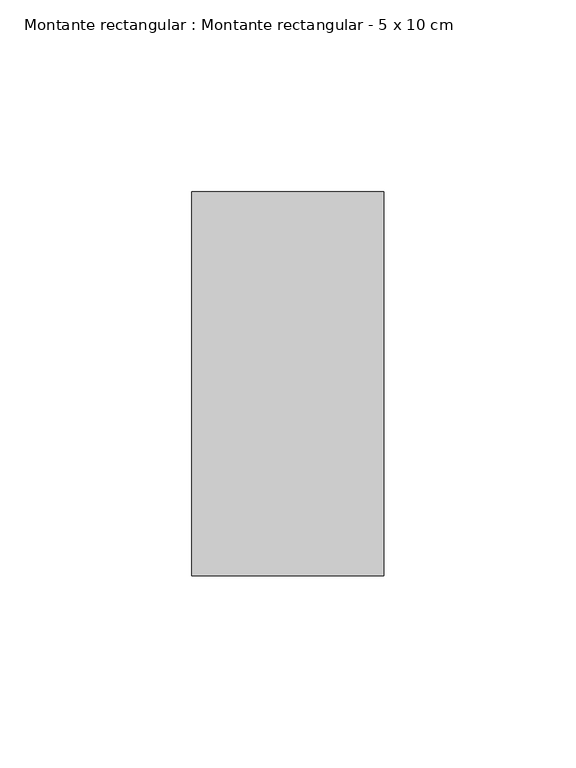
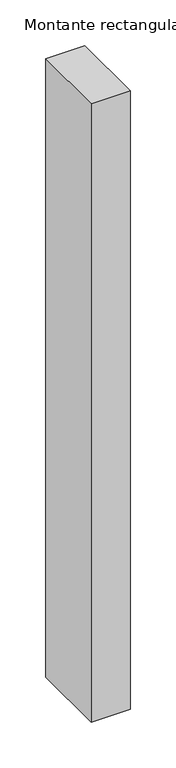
"""IFC4 building model written with IfcOpenShell, lengths in millimetres: member geometry, Montante rectangular : Montante rectangular - 5 x 10 cm."""

import ifcopenshell
import ifcopenshell.guid

model = None  # the IFC model being written
_history = None  # IfcOwnerHistory: only IFC2X3 demands one
_inside = {}  # id of a spatial element -> (the spatial element, [elements in it])
_under = {}  # id of a project, library or spatial element -> (it, [spatial elements below it])
_declared = {}  # id of a project -> (the project, [libraries it declares])
_typed = {}  # id of a type object -> (the type object, [elements of that type])
_made_of = {}  # id of a material, layer set ... -> (it, [elements and type objects made of it])


def new_model(schema):
    """Start an empty IFC model of exactly this schema.

    Asked for "IFC4X3", IfcOpenShell would pick the latest addendum, in which some entities
    have other attributes; the version numbers below select the first issue.
    IFC2X3 requires an IfcOwnerHistory on every rooted entity: one is made here for all.
    """
    global model, _history
    if schema == "IFC4X3":
        model = ifcopenshell.file(schema_version=(4, 3, 0, 0))
    else:
        model = ifcopenshell.file(schema=schema)
    _inside.clear()
    _under.clear()
    _declared.clear()
    _typed.clear()
    _made_of.clear()
    _history = None
    if model.schema == "IFC2X3":
        org = make("IfcOrganization", Name="unknown")
        user = make(
            "IfcPersonAndOrganization",
            ThePerson=make("IfcPerson", FamilyName="unknown"),
            TheOrganization=org,
        )
        app = make(
            "IfcApplication",
            ApplicationDeveloper=org,
            Version="unknown",
            ApplicationFullName="unknown",
            ApplicationIdentifier="unknown",
        )
        _history = make(
            "IfcOwnerHistory",
            OwningUser=user,
            OwningApplication=app,
            ChangeAction="ADDED",
            CreationDate=0,
        )
    return model


def make(cls, **values):
    """One entity of the class cls with the attributes given. An attribute that is None is left unset."""
    return model.create_entity(
        cls, **{name: value for name, value in values.items() if value is not None}
    )


def rooted(cls, **values):
    """An entity with a GlobalId (a new one), such as an element, a storey or a relation."""
    return make(cls, GlobalId=ifcopenshell.guid.new(), OwnerHistory=_history, **values)


def si_unit(unit_type, name, prefix=None):
    """IfcSIUnit, for example si_unit("LENGTHUNIT", "METRE", prefix="MILLI")."""
    return make("IfcSIUnit", UnitType=unit_type, Prefix=prefix, Name=name)


def assignment(units):
    """IfcUnitAssignment: the units of a project."""
    return None if units is None else make("IfcUnitAssignment", Units=units)


def point(xyz):
    """IfcCartesianPoint."""
    return None if xyz is None else make("IfcCartesianPoint", Coordinates=xyz)


def direction(xyz):
    """IfcDirection."""
    return None if xyz is None else make("IfcDirection", DirectionRatios=xyz)


def frame(location, z_axis=None, x_axis=None):
    """IfcAxis2Placement3D, a coordinate frame: its origin and axes. An axis left out is left unset."""
    return make(
        "IfcAxis2Placement3D",
        Location=point(location),
        Axis=direction(z_axis),
        RefDirection=direction(x_axis),
    )


def origin():
    """The frame at (0, 0, 0) with its axes left unset."""
    return frame((0.0, 0.0, 0.0))


def place(relative_to, where):
    """IfcLocalPlacement: puts the frame where relative to a parent placement (None: the world)."""
    return make(
        "IfcLocalPlacement", PlacementRelTo=relative_to, RelativePlacement=where
    )


def context(
    kind, dimensions, precision=None, world=None, true_north=None, identifier=None
):
    """IfcGeometricRepresentationContext, for example the 3D "Model" context."""
    return make(
        "IfcGeometricRepresentationContext",
        ContextIdentifier=identifier,
        ContextType=kind,
        CoordinateSpaceDimension=dimensions,
        Precision=precision,
        WorldCoordinateSystem=world,
        TrueNorth=true_north,
    )


def project(units=None, contexts=None):
    """IfcProject with its units and contexts."""
    return rooted(
        "IfcProject",
        Name="project",
        RepresentationContexts=contexts,
        UnitsInContext=assignment(units),
    )


def spatial(cls, under=None, at=None, **own):
    """A site, building, storey or space (cls), placed at a placement, below another one or the project."""
    s = rooted(cls, ObjectPlacement=at, **own)
    if under is not None:
        _under.setdefault(under.id(), (under, []))[1].append(s)
    return s


def polyline(points):
    """IfcPolyline through the points."""
    return make("IfcPolyline", Points=[point(p) for p in points])


def outline(outer, holes=None, kind="AREA"):
    """IfcArbitraryClosedProfileDef: a profile drawn as a closed curve; with holes, ...WithVoids."""
    if holes is None:
        return make("IfcArbitraryClosedProfileDef", ProfileType=kind, OuterCurve=outer)
    return make(
        "IfcArbitraryProfileDefWithVoids",
        ProfileType=kind,
        OuterCurve=outer,
        InnerCurves=holes,
    )


def extrude(swept, where, along, depth):
    """IfcExtrudedAreaSolid: the profile swept, set in the frame where, extruded along a direction by depth."""
    return make(
        "IfcExtrudedAreaSolid",
        SweptArea=swept,
        Position=where,
        ExtrudedDirection=direction(along),
        Depth=depth,
    )


def shape(context_of_items, identifier, shape_type, items):
    """IfcShapeRepresentation: the items that make up one representation, for example the "Body"."""
    return make(
        "IfcShapeRepresentation",
        ContextOfItems=context_of_items,
        RepresentationIdentifier=identifier,
        RepresentationType=shape_type,
        Items=items,
    )


def source(mapping_origin, context_of_items, identifier, shape_type, items):
    """IfcRepresentationMap: a shape defined once, which mapped items show again and again."""
    return make(
        "IfcRepresentationMap",
        MappingOrigin=mapping_origin,
        MappedRepresentation=shape(context_of_items, identifier, shape_type, items),
    )


def transform(
    local_origin,
    x_axis=None,
    y_axis=None,
    z_axis=None,
    scale=None,
    scale2=None,
    scale3=None,
    uniform=True,
):
    """IfcCartesianTransformationOperator3D, or its non-uniform kind. x_axis, y_axis, z_axis: its Axis1, 2, 3."""
    if uniform:
        return make(
            "IfcCartesianTransformationOperator3D",
            Axis1=direction(x_axis),
            Axis2=direction(y_axis),
            LocalOrigin=point(local_origin),
            Scale=scale,
            Axis3=direction(z_axis),
        )
    return make(
        "IfcCartesianTransformationOperator3DnonUniform",
        Axis1=direction(x_axis),
        Axis2=direction(y_axis),
        LocalOrigin=point(local_origin),
        Scale=scale,
        Axis3=direction(z_axis),
        Scale2=scale2,
        Scale3=scale3,
    )


def mapped(mapping_source, mapping_target):
    """IfcMappedItem: shows the shape of a source again, moved by a transform."""
    return make(
        "IfcMappedItem", MappingSource=mapping_source, MappingTarget=mapping_target
    )


def made_of(thing, what):
    """Note that an element or type object is made of a material, layer set ...; save() writes the relation."""
    if what is not None:
        _made_of.setdefault(what.id(), (what, []))[1].append(thing)
    return thing


def element(
    cls,
    number,
    at=None,
    inside=None,
    cuts=None,
    type_object=None,
    material=None,
    context=None,
    identifier="Body",
    shape_type=None,
    held_by="IfcProductDefinitionShape",
    body=None,
    shapes=None,
    **own,
):
    """One element of the class cls, such as IfcWall. Its Tag is "e" and its number.

    at: its placement. inside: the storey or other place that contains it. cuts: it is an
    opening in that element (IfcRelVoidsElement). A single representation is given by context,
    identifier, shape_type and body (its items); several are given by shapes. held_by: the class
    of the entity that holds the representations. save() writes the other relations.
    """
    e = rooted(cls, Tag="e%d" % number, ObjectPlacement=at, **own)
    if body is not None:
        shapes = [shape(context, identifier, shape_type, body)]
    if shapes is not None:
        e.Representation = make(held_by, Representations=shapes)
    if inside is not None:
        _inside.setdefault(inside.id(), (inside, []))[1].append(e)
    if cuts is not None:
        rooted(
            "IfcRelVoidsElement", RelatingBuildingElement=cuts, RelatedOpeningElement=e
        )
    if type_object is not None:
        _typed.setdefault(type_object.id(), (type_object, []))[1].append(e)
    return made_of(e, material)


def aggregate(whole, parts):
    """IfcRelAggregates: a whole, such as a stair, and the parts it consists of."""
    return rooted("IfcRelAggregates", RelatingObject=whole, RelatedObjects=parts)


def save(model, path):
    """Write the relations noted so far, then the file.

    IfcRelAggregates (storeys below a building ...), IfcRelContainedInSpatialStructure (elements
    in a storey), IfcRelDefinesByType, IfcRelAssociatesMaterial and IfcRelDeclares: one each for
    every whole, place, type object, material and project.
    """
    for whole, parts in _under.values():
        aggregate(whole, parts)
    for where, things in _inside.values():
        rooted(
            "IfcRelContainedInSpatialStructure",
            RelatedElements=things,
            RelatingStructure=where,
        )
    for kind, things in _typed.values():
        rooted("IfcRelDefinesByType", RelatedObjects=things, RelatingType=kind)
    for what, things in _made_of.values():
        rooted("IfcRelAssociatesMaterial", RelatedObjects=things, RelatingMaterial=what)
    for by, libraries in _declared.values():
        rooted("IfcRelDeclares", RelatingContext=by, RelatedDefinitions=libraries)
    model.write(path)


def montante_rectangular_montante_rectangular_5_x_10_cm_3eb43175(model_context):
    return source(origin(), model_context, "Body", "SweptSolid", [
        extrude(outline(polyline([(25.0, 50.0), (25.0, -50.0), (-25.0, -50.0), (-25.0, 50.0), (25.0, 50.0)])), frame((0.0, 0.0, -830.0), z_axis=(0.0, 0.0, 1.0), x_axis=(1.0, 0.0, 0.0)), (0.0, 0.0, 1.0), 830.0),
    ])


if __name__ == "__main__":
    model = new_model("IFC4")
    model_context = context("Model", 3, world=origin())
    ifc_project = project(units=[si_unit("LENGTHUNIT", "METRE", prefix="MILLI")], contexts=[model_context])
    site = spatial("IfcSite", under=ifc_project)
    building = spatial("IfcBuilding", under=site)
    placement = place(None, origin())
    montante_rectangular_montante_rectangular_5_x_10_cm_shape = montante_rectangular_montante_rectangular_5_x_10_cm_3eb43175(model_context)
    element("IfcMember", 1, ObjectType="Montante rectangular : Montante rectangular - 5 x 10 cm", at=placement, inside=building, context=model_context, shape_type="MappedRepresentation", body=[
        mapped(montante_rectangular_montante_rectangular_5_x_10_cm_shape, transform((0.0, 0.0, 0.0), x_axis=(1.0, 0.0, 0.0), y_axis=(0.0, 1.0, 0.0), z_axis=(0.0, 0.0, 1.0))),
    ])
    save(model, "model.ifc")
